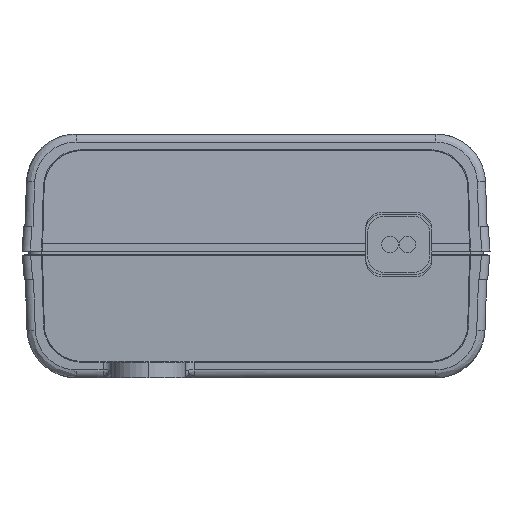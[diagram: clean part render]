
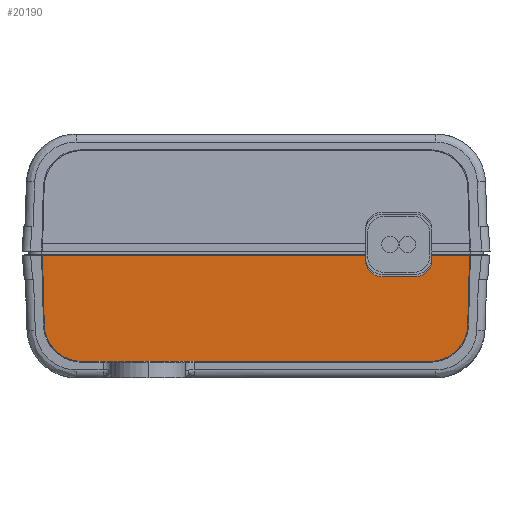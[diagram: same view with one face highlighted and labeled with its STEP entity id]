
A CAD part, left-side view. The second image highlights one B-rep face of the part: STEP entity #20190.
In plain terms, the highlighted planar face has unit normal (-0.999, 0, -0.035).
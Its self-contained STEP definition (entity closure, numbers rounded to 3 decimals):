
#7020=CARTESIAN_POINT('',(45.234,60.502,14.85));
#7030=VERTEX_POINT('',#7020);
#7060=CARTESIAN_POINT('',(45.234,60.502,14.85));
#7070=DIRECTION('',(0.,1.,0.));
#7080=VECTOR('',#7070,1.);
#7090=LINE('',#7060,#7080);
#7100=CARTESIAN_POINT('',(45.234,99.757,14.85));
#7110=VERTEX_POINT('',#7100);
#7120=EDGE_CURVE('',#7030,#7110,#7090,.T.);
#19150=CARTESIAN_POINT('',(45.53,99.535,
6.382));
#19160=DIRECTION('',(-0.035,0.026,
0.999));
#19170=VECTOR('',#19160,1.);
#19180=LINE('',#19150,#19170);
#19190=CARTESIAN_POINT('',(45.53,99.535,
6.382));
#19200=VERTEX_POINT('',#19190);
#19210=EDGE_CURVE('',#19200,#7110,#19180,.T.);
#19340=CARTESIAN_POINT('',(44.934,80.383,
23.46));
#19350=DIRECTION('',(-0.999,0.,-0.035));
#19360=DIRECTION('',(0.,-1.,0.));
#19370=AXIS2_PLACEMENT_3D('',#19340,#19350,#19360);
#19380=PLANE('',#19370);
#19390=ORIENTED_EDGE('',*,*,#7120,.T.);
#19400=CARTESIAN_POINT('',(45.234,60.502,14.85));
#19410=DIRECTION('',(0.035,0.,-0.999));
#19420=VECTOR('',#19410,1.);
#19430=LINE('',#19400,#19420);
#19440=CARTESIAN_POINT('',(45.28,60.502,
13.55));
#19450=VERTEX_POINT('',#19440);
#19460=EDGE_CURVE('',#7030,#19450,#19430,.T.);
#19470=ORIENTED_EDGE('',*,*,#19460,.F.);
#19480=CARTESIAN_POINT('',(45.28,52.802,
13.55));
#19490=DIRECTION('',(0.,1.,0.));
#19500=VECTOR('',#19490,1.);
#19510=LINE('',#19480,#19500);
#19520=CARTESIAN_POINT('',(45.28,52.802,
13.55));
#19530=VERTEX_POINT('',#19520);
#19540=EDGE_CURVE('',#19530,#19450,#19510,.T.);
#19550=ORIENTED_EDGE('',*,*,#19540,.T.);
#19560=CARTESIAN_POINT('',(45.28,52.802,
13.55));
#19570=DIRECTION('',(-0.035,0.,0.999));
#19580=VECTOR('',#19570,1.);
#19590=LINE('',#19560,#19580);
#19600=CARTESIAN_POINT('',(45.234,52.802,14.85));
#19610=VERTEX_POINT('',#19600);
#19620=EDGE_CURVE('',#19530,#19610,#19590,.T.);
#19630=ORIENTED_EDGE('',*,*,#19620,.F.);
#19640=CARTESIAN_POINT('',(45.234,48.084,14.85));
#19650=DIRECTION('',(0.,1.,0.));
#19660=VECTOR('',#19650,1.);
#19670=LINE('',#19640,#19660);
#19680=CARTESIAN_POINT('',(45.234,48.084,14.85));
#19690=VERTEX_POINT('',#19680);
#19700=EDGE_CURVE('',#19690,#19610,#19670,.T.);
#19710=ORIENTED_EDGE('',*,*,#19700,.T.);
#19720=CARTESIAN_POINT('',(45.234,48.084,14.85));
#19730=DIRECTION('',(0.035,0.026,
-0.999));
#19740=VECTOR('',#19730,1.);
#19750=LINE('',#19720,#19740);
#19760=CARTESIAN_POINT('',(45.53,48.306,
6.382));
#19770=VERTEX_POINT('',#19760);
#19780=EDGE_CURVE('',#19690,#19770,#19750,.T.);
#19790=ORIENTED_EDGE('',*,*,#19780,.F.);
#19800=CARTESIAN_POINT('',(45.53,48.303,
6.382));
#19810=CARTESIAN_POINT('',(45.542,48.312,
6.046));
#19820=CARTESIAN_POINT('',(45.565,48.406,
5.394));
#19830=CARTESIAN_POINT('',(45.597,48.754,
4.454));
#19840=CARTESIAN_POINT('',(45.627,49.3,
3.618));
#19850=CARTESIAN_POINT('',(45.651,50.016,
2.921));
#19860=CARTESIAN_POINT('',(45.669,50.866,
2.398));
#19870=CARTESIAN_POINT('',(45.681,51.814,
2.073));
#19880=CARTESIAN_POINT('',(45.683,52.468,
2.));
#19890=CARTESIAN_POINT('',(45.683,52.804,
2.));
#19900=B_SPLINE_CURVE_WITH_KNOTS('',3,(#19800,#19810,#19820,#19830,
#19840,#19850,#19860,#19870,#19880,#19890),.UNSPECIFIED.,.F.,.F.,(4,1,1,
1,1,1,1,4),(0.,0.143,0.286,0.429,
0.571,0.714,0.857,1.),.UNSPECIFIED.)
;
#19910=CARTESIAN_POINT('',(45.683,52.804,2.));
#19920=VERTEX_POINT('',#19910);
#19930=EDGE_CURVE('',#19770,#19920,#19900,.T.);
#19940=ORIENTED_EDGE('',*,*,#19930,.F.);
#19950=CARTESIAN_POINT('',(45.683,52.804,2.));
#19960=DIRECTION('',(0.,1.,0.));
#19970=VECTOR('',#19960,1.);
#19980=LINE('',#19950,#19970);
#19990=CARTESIAN_POINT('',(45.683,95.036,2.));
#20000=VERTEX_POINT('',#19990);
#20010=EDGE_CURVE('',#19920,#20000,#19980,.T.);
#20020=ORIENTED_EDGE('',*,*,#20010,.F.);
#20030=CARTESIAN_POINT('',(45.683,95.036,
2.));
#20040=CARTESIAN_POINT('',(45.683,95.373,
2.));
#20050=CARTESIAN_POINT('',(45.681,96.027,
2.073));
#20060=CARTESIAN_POINT('',(45.669,96.974,
2.398));
#20070=CARTESIAN_POINT('',(45.651,97.824,
2.921));
#20080=CARTESIAN_POINT('',(45.627,98.54,
3.618));
#20090=CARTESIAN_POINT('',(45.597,99.086,
4.454));
#20100=CARTESIAN_POINT('',(45.565,99.434,
5.394));
#20110=CARTESIAN_POINT('',(45.542,99.529,
6.046));
#20120=CARTESIAN_POINT('',(45.53,99.538,
6.382));
#20130=B_SPLINE_CURVE_WITH_KNOTS('',3,(#20030,#20040,#20050,#20060,
#20070,#20080,#20090,#20100,#20110,#20120),.UNSPECIFIED.,.F.,.F.,(4,1,1,
1,1,1,1,4),(0.,0.143,0.286,0.429,
0.571,0.714,0.857,1.),.UNSPECIFIED.)
;
#20140=EDGE_CURVE('',#20000,#19200,#20130,.T.);
#20150=ORIENTED_EDGE('',*,*,#20140,.F.);
#20160=ORIENTED_EDGE('',*,*,#19210,.F.);
#20170=EDGE_LOOP('',(#20160,#20150,#20020,#19940,#19790,#19710,#19630,
#19550,#19470,#19390));
#20180=FACE_OUTER_BOUND('',#20170,.T.);
#20190=ADVANCED_FACE('',(#20180),#19380,.T.);
